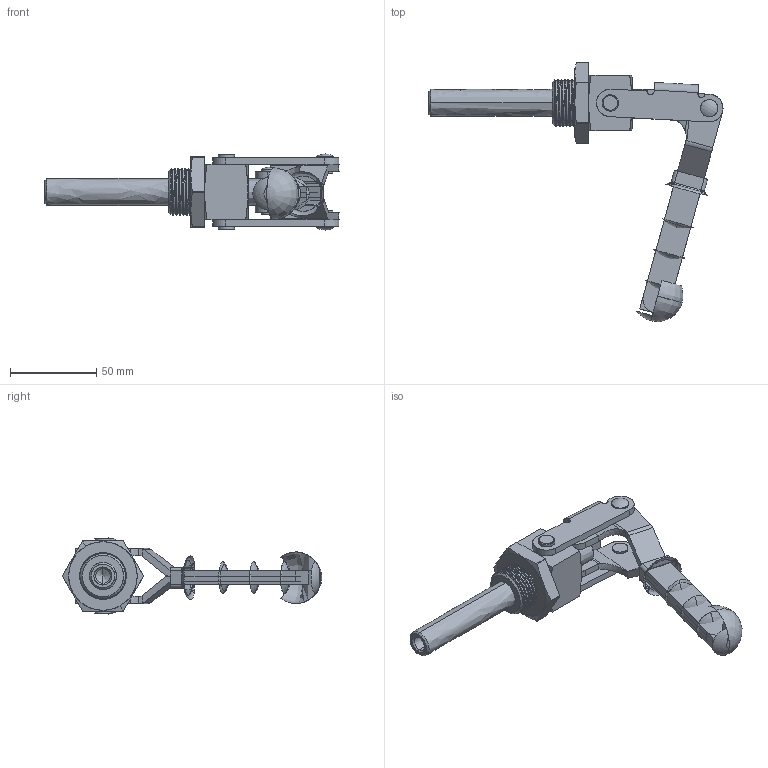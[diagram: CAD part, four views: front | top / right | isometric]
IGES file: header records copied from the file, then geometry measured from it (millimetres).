
Start section: SolidWorks IGES file using analytic representation for surfaces
Global section: file name: \\BARTOP_SV6\share\SOLIDWORKS\工具事業部\坂入用\Toggle clamp\ISK-FM2500\ISK-FM2500.IGS; native system: SolidWorks 2015; preprocessor: SolidWorks 2015; author: SOLID02; date: 150819.210148; units: millimetre
Bounding box: 170.7 x 150.53 x 44.2 mm (x, y, z)
Surface area: 53965.5 mm2 (no closed solid volume)
Topology: 0 solids, 0 shells, 294 faces, 5157 edges, 5154 vertices
Faces by surface type: revolution 158, bspline 136
